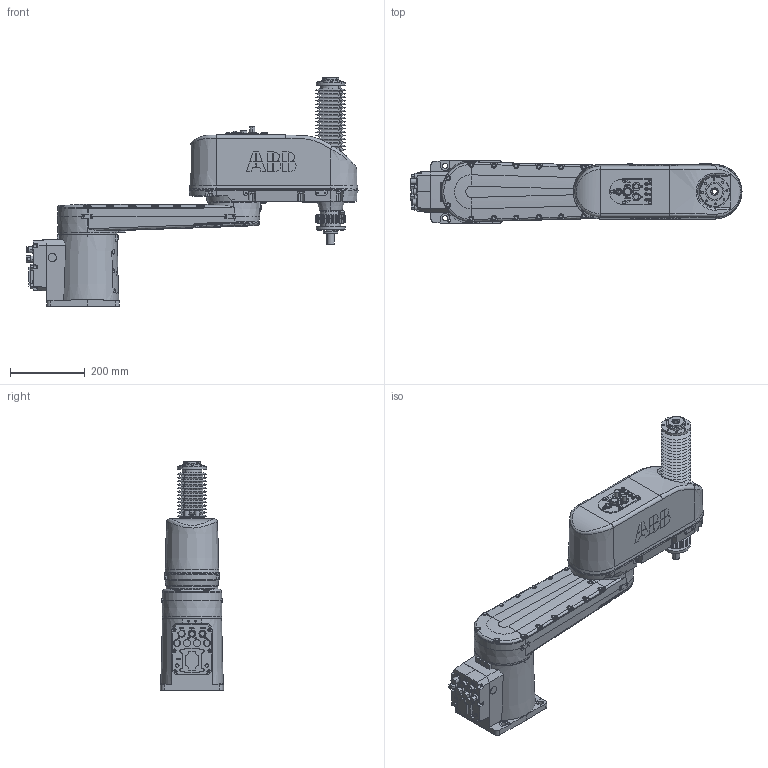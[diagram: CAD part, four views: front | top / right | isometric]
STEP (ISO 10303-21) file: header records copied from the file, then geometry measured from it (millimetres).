
FILE_DESCRIPTION (( 'STEP AP214' ), '1' );
FILE_NAME ('IRB920_6kg-650-145-IP54-STD_OmniCore_rev00_Assembly.STEP', '2022-06-20T07:36:45', ( '' ), ( '' ), 'SwSTEP 2.0', 'SolidWorks 2020', '' );
FILE_SCHEMA (( 'AUTOMOTIVE_DESIGN' ));
Length unit declared in the file: millimetre
Products named in the file (5): IRB920_6kg-650-145-IP54-STD_OmniCore_rev00_LINK2_CAD; IRB920_6kg-650-145-IP54-STD_OmniCore_rev00_LINK0_CAD; IRB920_6kg-650-145-IP54-STD_OmniCore_rev00_LINK3_CAD; IRB920_6kg-650-145-IP54-STD_OmniCore_rev00_LINK1_CAD; IRB920_6kg-650-145-IP54-STD_OmniCore_rev00_Assembly
Assembly tree (4 placements, depth 2):
  IRB920_6kg-650-145-IP54-STD_OmniCore_rev00_Assembly
    IRB920_6kg-650-145-IP54-STD_OmniCore_rev00_LINK0_CAD
    IRB920_6kg-650-145-IP54-STD_OmniCore_rev00_LINK1_CAD
    IRB920_6kg-650-145-IP54-STD_OmniCore_rev00_LINK2_CAD
    IRB920_6kg-650-145-IP54-STD_OmniCore_rev00_LINK3_CAD
Bounding box: 887 x 170 x 610.8 mm (x, y, z)
Volume: 20853985.3 mm3; surface area: 1070264.4 mm2
Topology: 4 solids, 4 shells, 2489 faces, 6281 edges, 4038 vertices
Faces by surface type: plane 1266, cylinder 452, bspline 379, cone 377, torus 14, sphere 1
Entity records: 100584 total; most frequent: CARTESIAN_POINT 41808, ORIENTED_EDGE 12410, DIRECTION 10251, EDGE_CURVE 6205, VERTEX_POINT 4036, LINE 3681, VECTOR 3681, AXIS2_PLACEMENT_3D 3285
